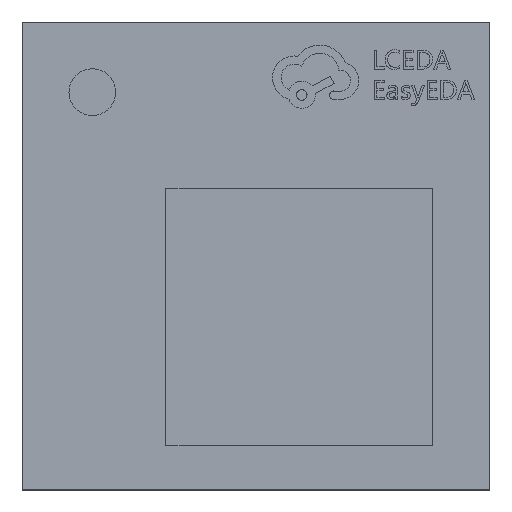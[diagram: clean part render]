
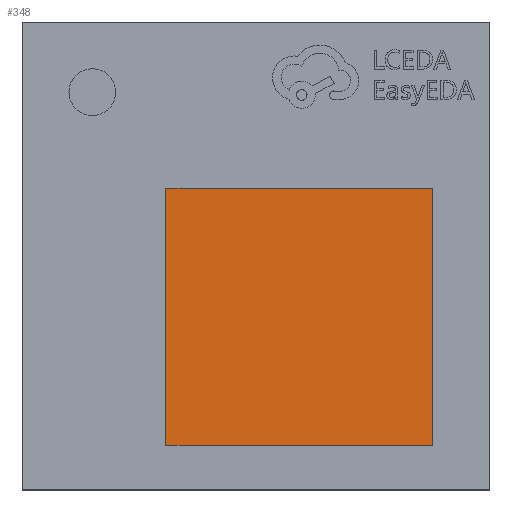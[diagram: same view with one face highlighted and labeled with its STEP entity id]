
A CAD part, top view. The second image highlights one B-rep face of the part: STEP entity #348.
In plain terms, the highlighted planar face has unit normal (0, 0, 1).
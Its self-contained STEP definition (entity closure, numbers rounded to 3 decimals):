
#348 = ADVANCED_FACE ( 'NONE', ( #2093 ), #6881, .T. ) ;
#689 = CARTESIAN_POINT ( 'NONE',  ( 0., 0.29, 0.8 ) ) ;
#873 = CARTESIAN_POINT ( 'NONE',  ( 0., 0., 0.8 ) ) ;
#1285 = LINE ( 'NONE', #14103, #14200 ) ;
#2001 = DIRECTION ( 'NONE',  ( 1., 0., 0. ) ) ;
#2093 = FACE_OUTER_BOUND ( 'NONE', #8856, .T. ) ;
#2615 = DIRECTION ( 'NONE',  ( 0., -1., 0. ) ) ;
#2746 = ORIENTED_EDGE ( 'NONE', *, *, #3275, .F. ) ;
#2989 = CARTESIAN_POINT ( 'NONE',  ( -0.385, -0.81, 0.8 ) ) ;
#3275 = EDGE_CURVE ( 'NONE', #14808, #14786, #9540, .T. ) ;
#4396 = VECTOR ( 'NONE', #8243, 1000. ) ;
#4532 = VERTEX_POINT ( 'NONE', #6365 ) ;
#4649 = EDGE_CURVE ( 'NONE', #7721, #4532, #13070, .T. ) ;
#4938 = CARTESIAN_POINT ( 'NONE',  ( 0.755, -0.81, 0.8 ) ) ;
#5699 = AXIS2_PLACEMENT_3D ( 'NONE', #873, #10230, #14909 ) ;
#6177 = CARTESIAN_POINT ( 'NONE',  ( 0.755, 0., 0.8 ) ) ;
#6365 = CARTESIAN_POINT ( 'NONE',  ( -0.385, 0.29, 0.8 ) ) ;
#6854 = ORIENTED_EDGE ( 'NONE', *, *, #13368, .F. ) ;
#6881 = PLANE ( 'NONE',  #5699 ) ;
#7544 = CARTESIAN_POINT ( 'NONE',  ( 0.755, 0.29, 0.8 ) ) ;
#7555 = VECTOR ( 'NONE', #2615, 1000. ) ;
#7721 = VERTEX_POINT ( 'NONE', #2989 ) ;
#7832 = LINE ( 'NONE', #689, #12582 ) ;
#8243 = DIRECTION ( 'NONE',  ( 0., 1., 0. ) ) ;
#8631 = EDGE_CURVE ( 'NONE', #4532, #14808, #7832, .T. ) ;
#8856 = EDGE_LOOP ( 'NONE', ( #14326, #6854, #2746, #10945 ) ) ;
#9540 = LINE ( 'NONE', #6177, #7555 ) ;
#10230 = DIRECTION ( 'NONE',  ( 0., 0., 1. ) ) ;
#10420 = DIRECTION ( 'NONE',  ( -1., 0., 0. ) ) ;
#10945 = ORIENTED_EDGE ( 'NONE', *, *, #8631, .F. ) ;
#12582 = VECTOR ( 'NONE', #2001, 1000. ) ;
#13070 = LINE ( 'NONE', #14245, #4396 ) ;
#13368 = EDGE_CURVE ( 'NONE', #14786, #7721, #1285, .T. ) ;
#14103 = CARTESIAN_POINT ( 'NONE',  ( 0., -0.81, 0.8 ) ) ;
#14200 = VECTOR ( 'NONE', #10420, 1000. ) ;
#14245 = CARTESIAN_POINT ( 'NONE',  ( -0.385, 0., 0.8 ) ) ;
#14326 = ORIENTED_EDGE ( 'NONE', *, *, #4649, .F. ) ;
#14786 = VERTEX_POINT ( 'NONE', #4938 ) ;
#14808 = VERTEX_POINT ( 'NONE', #7544 ) ;
#14909 = DIRECTION ( 'NONE',  ( 1., 0., 0. ) ) ;
